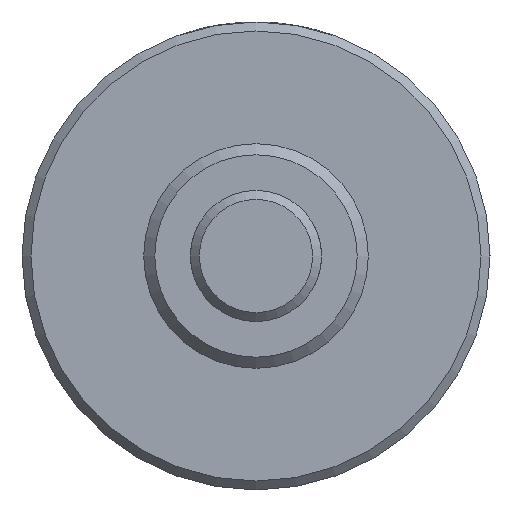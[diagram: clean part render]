
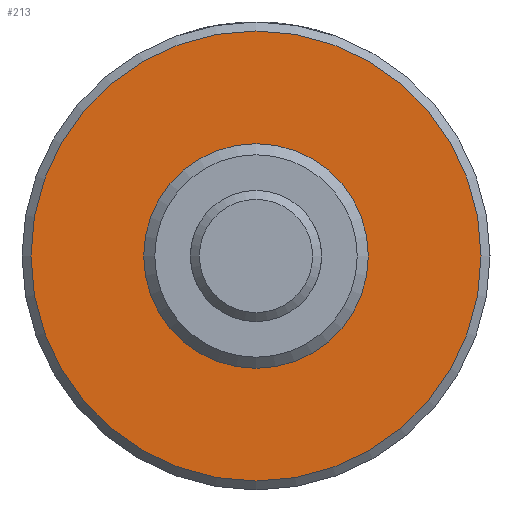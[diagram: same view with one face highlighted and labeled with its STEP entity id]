
A CAD part, left-side view. The second image highlights one B-rep face of the part: STEP entity #213.
In plain terms, the highlighted planar face has unit normal (-1, 0, 0).
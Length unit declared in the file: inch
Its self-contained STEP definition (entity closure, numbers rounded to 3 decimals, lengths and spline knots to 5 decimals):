
#213 = ADVANCED_FACE( '', ( #439, #440 ), #441, .F. );
#439 = FACE_OUTER_BOUND( '', #659, .T. );
#440 = FACE_BOUND( '', #660, .T. );
#441 = PLANE( '', #661 );
#659 = EDGE_LOOP( '', ( #999 ) );
#660 = EDGE_LOOP( '', ( #1000 ) );
#661 = AXIS2_PLACEMENT_3D( '', #1001, #1002, #1003 );
#999 = ORIENTED_EDGE( '', *, *, #1142, .F. );
#1000 = ORIENTED_EDGE( '', *, *, #1117, .T. );
#1001 = CARTESIAN_POINT( '', ( 0.625, 0.375, 0. ) );
#1002 = DIRECTION( '', ( 1., 0., 0. ) );
#1003 = DIRECTION( '', ( 0., 0., -1. ) );
#1117 = EDGE_CURVE( '', #1278, #1278, #1279, .T. );
#1142 = EDGE_CURVE( '', #1316, #1316, #1317, .T. );
#1278 = VERTEX_POINT( '', #1551 );
#1279 = CIRCLE( '', #1552, 0.375 );
#1316 = VERTEX_POINT( '', #1665 );
#1317 = CIRCLE( '', #1666, 0.7515 );
#1551 = CARTESIAN_POINT( '', ( 0.625, 0., -0.375 ) );
#1552 = AXIS2_PLACEMENT_3D( '', #1818, #1819, #1820 );
#1665 = CARTESIAN_POINT( '', ( 0.625, 0., -0.7515 ) );
#1666 = AXIS2_PLACEMENT_3D( '', #1853, #1854, #1855 );
#1818 = CARTESIAN_POINT( '', ( 0.625, 0., 0. ) );
#1819 = DIRECTION( '', ( 1., 0., 0. ) );
#1820 = DIRECTION( '', ( 0., 0., -1. ) );
#1853 = CARTESIAN_POINT( '', ( 0.625, 0., 0. ) );
#1854 = DIRECTION( '', ( 1., 0., 0. ) );
#1855 = DIRECTION( '', ( 0., 0., -1. ) );
